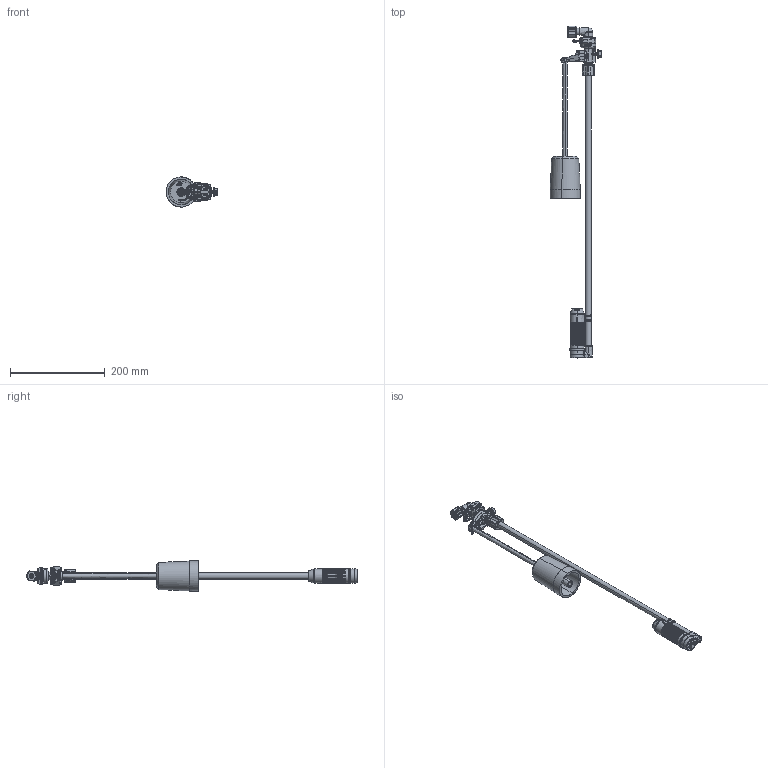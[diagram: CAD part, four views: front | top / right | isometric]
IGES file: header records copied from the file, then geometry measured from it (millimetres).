
Start section: SolidWorks IGES file using NURBS representation for surfaces
Global section: file name: N:\Solid Works\WTC\474SafetyFloat\ArtWork\474Assembly.IGS; native system: SolidWorks 2012; preprocessor: SolidWorks 2012; author: marshall; date: 130205.140425; units: inch
Bounding box: 109 x 700.5 x 63.48 mm (x, y, z)
Surface area: 119202.5 mm2 (no closed solid volume)
Topology: 0 solids, 0 shells, 1612 faces, 16641 edges, 16625 vertices
Faces by surface type: bspline 1612
